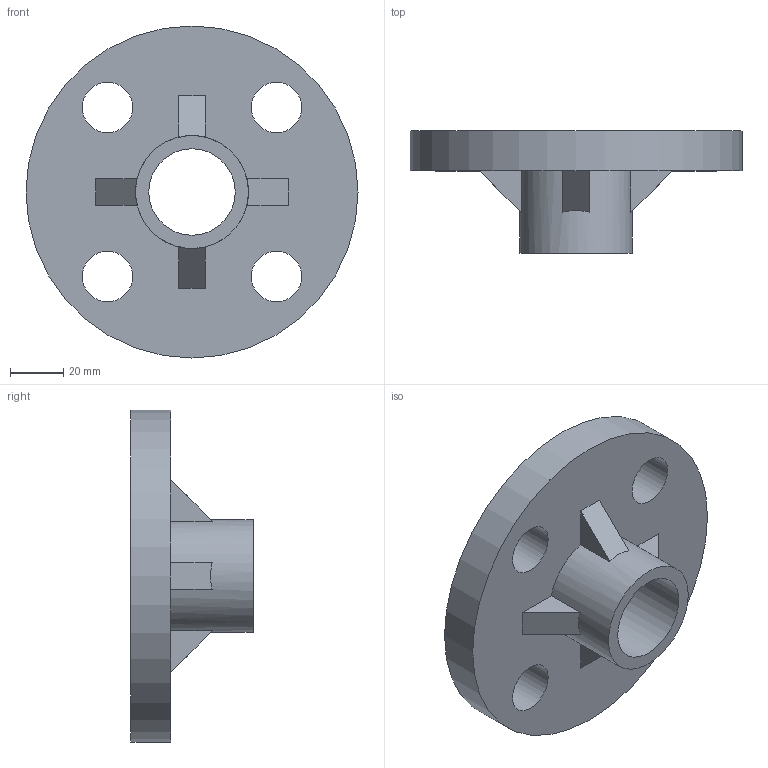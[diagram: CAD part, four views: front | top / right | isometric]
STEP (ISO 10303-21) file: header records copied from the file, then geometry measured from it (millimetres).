
FILE_DESCRIPTION(/* description */ ('ＶＰ'),/* implementation_level */ '2;1');
FILE_NAME(/* name */ 'C:\Users\Fujimoto-s\OneDrive\Inventor\WorkSpace\\X2\305D306E4ED6\X0\\ホームページ用\\X2\30C030A630F330ED30FC30C97D206750\X0\\塩ビ配管\TS-10KF25\TS-10KF25.stp',/* time_stamp */ '2024-08-10T13:19:06+09:00',/* author */ ('Fujimoto-s'),/* organization */ (''),/* preprocessor_version */ 'ST-DEVELOPER v15.2',/* originating_system */ 'Autodesk Inventor 2014',/* authorisation */ '');
FILE_SCHEMA (('AUTOMOTIVE_DESIGN { 1 0 10303 214 3 1 1 }'));
Length unit declared in the file: millimetre
Products named in the file (1): TS-10KF25
Bounding box: 125 x 46 x 125 mm (x, y, z)
Volume: 177385.4 mm3; surface area: 39537.2 mm2
Topology: 1 solids, 1 shells, 22 faces, 62 edges, 43 vertices
Faces by surface type: plane 15, cylinder 7
Full cylindrical faces by diameter (mm): 19 x4, 32.55 x1, 42.5 x1, 125 x1
Entity records: 682 total; most frequent: DIRECTION 116, CARTESIAN_POINT 109, ORIENTED_EDGE 98, EDGE_CURVE 49, AXIS2_PLACEMENT_3D 44, EDGE_LOOP 40, VERTEX_POINT 37, LINE 28
